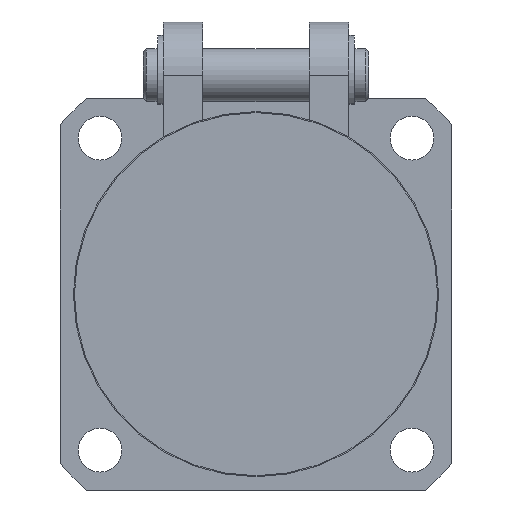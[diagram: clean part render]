
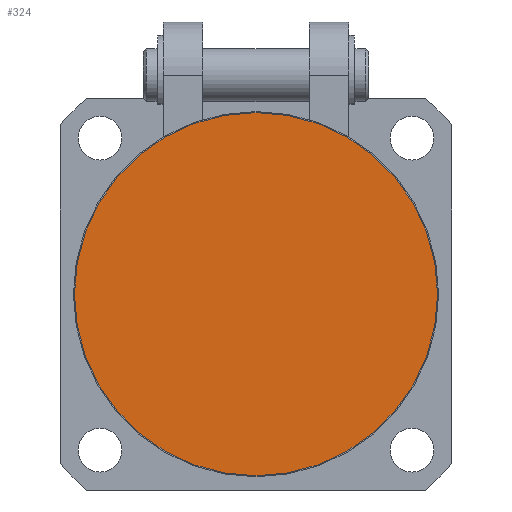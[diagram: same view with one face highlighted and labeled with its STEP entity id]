
A CAD part, front view. The second image highlights one B-rep face of the part: STEP entity #324.
In plain terms, the highlighted planar face has unit normal (0, -1, 0).
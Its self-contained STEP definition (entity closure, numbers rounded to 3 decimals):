
#324 = ADVANCED_FACE( '', ( #661 ), #662, .T. );
#661 = FACE_OUTER_BOUND( '', #1270, .T. );
#662 = PLANE( '', #1271 );
#1270 = EDGE_LOOP( '', ( #2070 ) );
#1271 = AXIS2_PLACEMENT_3D( '', #2071, #2072, #2073 );
#2070 = ORIENTED_EDGE( '', *, *, #3844, .T. );
#2071 = CARTESIAN_POINT( '', ( 0., -57.5, 0. ) );
#2072 = DIRECTION( '', ( 0., -1., 0. ) );
#2073 = DIRECTION( '', ( 1., 0., 0. ) );
#3844 = EDGE_CURVE( '', #4554, #4554, #4555, .T. );
#4554 = VERTEX_POINT( '', #5662 );
#4555 = CIRCLE( '', #5663, 27.35 );
#5662 = CARTESIAN_POINT( '', ( -27.35, -57.5, 0. ) );
#5663 = AXIS2_PLACEMENT_3D( '', #7013, #7014, #7015 );
#7013 = CARTESIAN_POINT( '', ( 0., -57.5, 0. ) );
#7014 = DIRECTION( '', ( 0., -1., 0. ) );
#7015 = DIRECTION( '', ( -1., 0., 0. ) );
